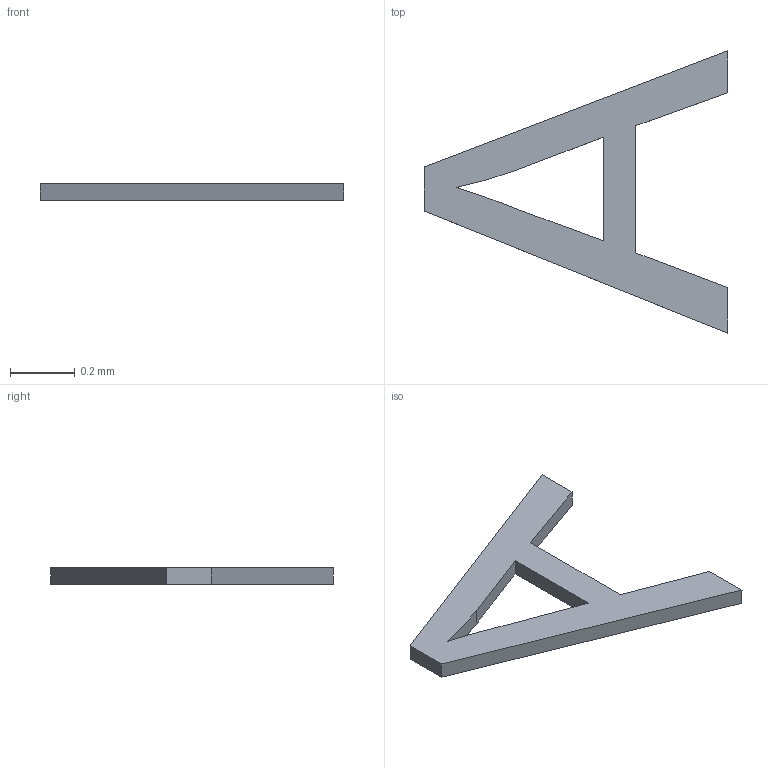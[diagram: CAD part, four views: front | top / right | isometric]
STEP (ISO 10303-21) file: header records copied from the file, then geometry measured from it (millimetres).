
FILE_DESCRIPTION(/* description */ ('STEP AP242 Edition 2','CAx-IF Rec.Pracs.---Representation and Presentation of Product Manufacturing Information (PMI)---4.0---2014-10-13','CAx-IF Rec.Pracs.---3D Tessellated Geometry---0.4---2014-09-14','2;1','CAx-IF Rec.Pracs.---User Defined Attributes---1.5---2016-08-15'),/* implementation_level */ '2;1');
FILE_NAME(/* name */ 'Drone Layout - Surface 312',/* time_stamp */ '2026-10-04T22:22:55Z',/* author */ (''),/* organization */ (''),/* preprocessor_version */ 'ST-DEVELOPER v20',/* originating_system */ 'ONSHAPE BY PTC INC, 1.221',/* authorisation */ ' ');
FILE_SCHEMA (('AP242_MANAGED_MODEL_BASED_3D_ENGINEERING_MIM_LF { 1 0 10303 442 3 1 4 }'));
Length unit declared in the file: metre
Products named in the file (1): Text_XDA
Bounding box: 0.93 x 0.87 x 0.05 mm (x, y, z)
Volume: 0 mm3; surface area: 0.8 mm2
Topology: 1 solids, 1 shells, 15 faces, 39 edges, 26 vertices
Faces by surface type: plane 13, cylinder 2
Entity records: 476 total; most frequent: CARTESIAN_POINT 93, ORIENTED_EDGE 78, DIRECTION 69, EDGE_CURVE 39, LINE 33, VECTOR 33, VERTEX_POINT 26, AXIS2_PLACEMENT_3D 18
